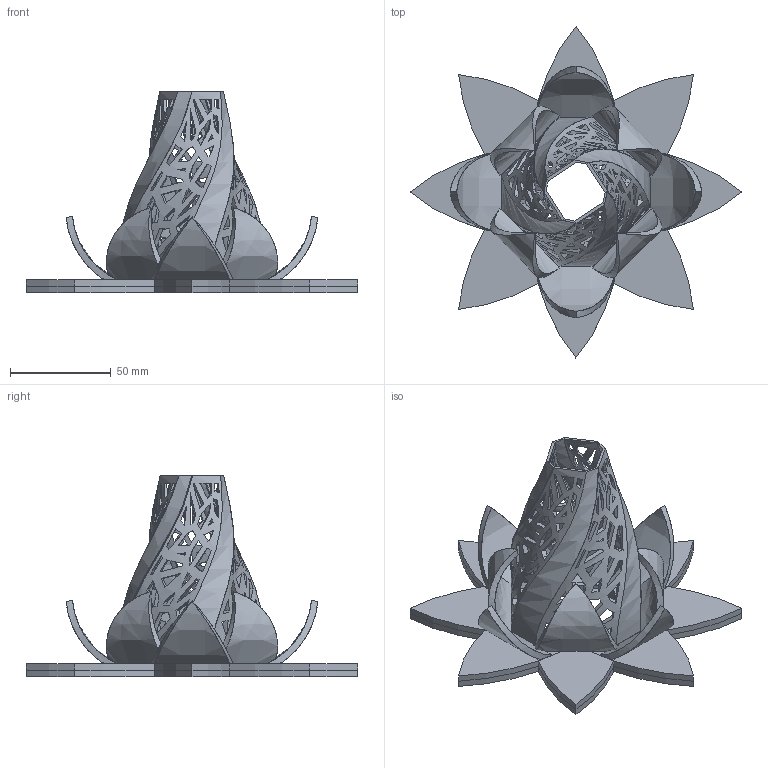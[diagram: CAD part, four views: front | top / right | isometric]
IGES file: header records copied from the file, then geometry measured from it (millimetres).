
Global section: file name: F:\3D Print (NEED TO SORT)\Radiant Blossom\IGES\Radiant Blossom.igs; native system: Rhinoceros ( Jun  9 2014 ); preprocessor: Trout Lake IGES 012 Jun  9 2014; date: 170105.004426; units: inch
Bounding box: 165.1 x 165.1 x 100.08 mm (x, y, z)
Surface area: 77945.5 mm2 (no closed solid volume)
Topology: 0 solids, 0 shells, 750 faces, 4346 edges, 4346 vertices
Faces by surface type: bspline 750
